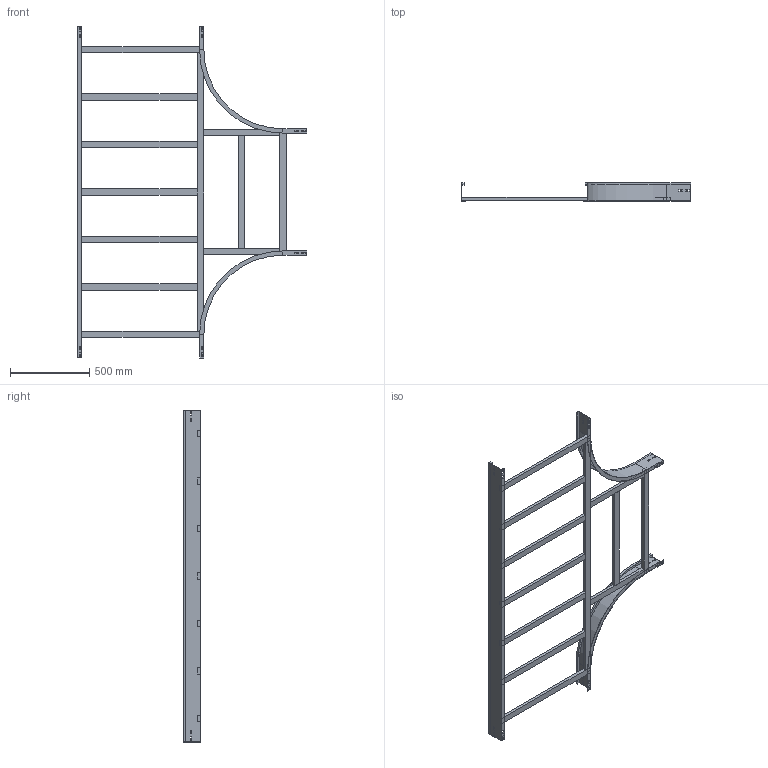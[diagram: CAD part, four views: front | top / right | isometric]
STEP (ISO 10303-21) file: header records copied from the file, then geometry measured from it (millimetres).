
FILE_DESCRIPTION (( 'STEP AP214' ), '1' );
FILE_NAME ('15B5J800.step', '2025-02-21T15:51:09', ( '' ), ( '' ), 'SwSTEP 2.0', 'SolidWorks 2023', '' );
FILE_SCHEMA (( 'AUTOMOTIVE_DESIGN' ));
Length unit declared in the file: millimetre
Products named in the file (8): 15B5J800; TRAVERSINO_INTERMEDIO_R500+800; LONGH.INTERNO 90°_H112.5_R500; TRAVERSINO_VERT_R500; TRAVERSINO_LONG._R500+800; TRAVERSINO_COPPIA_800; TRAVERSINO_800; LONGH.RETT_H112.5_R500+800
Assembly tree (15 placements, depth 2):
  15B5J800
    LONGH.INTERNO 90°_H112.5_R500  x2
    LONGH.RETT_H112.5_R500+800
    TRAVERSINO_800  x3
    TRAVERSINO_LONG._R500+800
    TRAVERSINO_INTERMEDIO_R500+800  x5
    TRAVERSINO_VERT_R500  x2
    TRAVERSINO_COPPIA_800
Bounding box: 1450 x 112.5 x 2100 mm (x, y, z)
Volume: 9774921.3 mm3; surface area: 2512637.8 mm2
Topology: 15 solids, 15 shells, 230 faces, 568 edges, 368 vertices
Faces by surface type: plane 222, cylinder 8
Entity records: 4217 total; most frequent: CARTESIAN_POINT 696, ORIENTED_EDGE 664, DIRECTION 636, EDGE_CURVE 332, LINE 324, VECTOR 324, VERTEX_POINT 216, EDGE_LOOP 162
